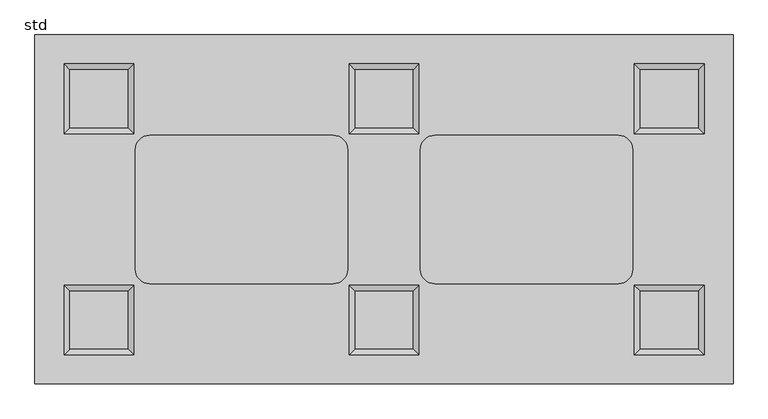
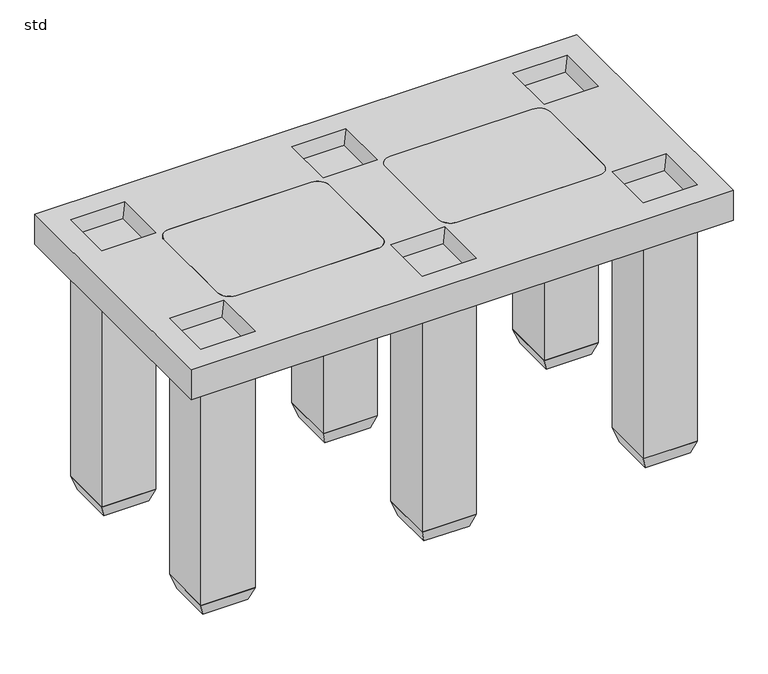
"""IFC4 building model written with IfcOpenShell, lengths in millimetres: unitary equipment geometry, Z_ME_UN_Q-Bic_Plus_Infiltration_Unit_Wavin_(nested) : std."""

from ifc_helpers import new_model, si_unit, point, frame, frame_2d, origin, origin_with_axes, place, context, project, spatial, polyline, circle_curve, trimmed, segment, composite_curve, outline, extrude, faceted_brep, source, transform, mapped, element, save
from ifc_brep_helpers import plane_surface, revolved_surface, advanced_brep


def std_d7962c01(model_context):
    return source(origin(), model_context, "Body", "SolidModel", [
        extrude(outline(composite_curve([segment(polyline([(687.5, 427.5), (1002.5, 427.5)]), True, "CONTINUOUS"), segment(trimmed(circle_curve(frame_2d((1002.5, 402.5)), 25.0), [point((1002.5, 427.5))], [point((1027.5, 402.5))], False, "CARTESIAN"), True, "CONTINUOUS"), segment(polyline([(1027.5, 402.5), (1027.5, 197.5)]), True, "CONTINUOUS"), segment(trimmed(circle_curve(frame_2d((1002.5, 197.5)), 25.0), [point((1027.5, 197.5))], [point((1002.5, 172.5))], False, "CARTESIAN"), True, "CONTINUOUS"), segment(polyline([(1002.5, 172.5), (687.5, 172.5)]), True, "CONTINUOUS"), segment(trimmed(circle_curve(frame_2d((687.5, 197.5)), 25.0), [point((687.5, 172.5))], [point((662.5, 197.5))], False, "CARTESIAN"), True, "CONTINUOUS"), segment(polyline([(662.5, 197.5), (662.5, 402.5)]), True, "CONTINUOUS"), segment(trimmed(circle_curve(frame_2d((687.5, 402.5)), 25.0), [point((662.5, 402.5))], [point((687.5, 427.5))], False, "CARTESIAN"), True, "CONTINUOUS")], self_intersect=False)), frame((0.0, 0.0, 530.0), z_axis=(0.0, 0.0, 1.0), x_axis=(1.0, 0.0, 0.0)), (0.0, 0.0, 1.0), 70.0),
        extrude(outline(composite_curve([segment(polyline([(197.5, 427.5), (512.5, 427.5)]), True, "CONTINUOUS"), segment(trimmed(circle_curve(frame_2d((512.5, 402.5)), 25.0), [point((512.5, 427.5))], [point((537.5, 402.5))], False, "CARTESIAN"), True, "CONTINUOUS"), segment(polyline([(537.5, 402.5), (537.5, 197.5)]), True, "CONTINUOUS"), segment(trimmed(circle_curve(frame_2d((512.5, 197.5)), 25.0), [point((537.5, 197.5))], [point((512.5, 172.5))], False, "CARTESIAN"), True, "CONTINUOUS"), segment(polyline([(512.5, 172.5), (197.5, 172.5)]), True, "CONTINUOUS"), segment(trimmed(circle_curve(frame_2d((197.5, 197.5)), 25.0), [point((197.5, 172.5))], [point((172.5, 197.5))], False, "CARTESIAN"), True, "CONTINUOUS"), segment(polyline([(172.5, 197.5), (172.5, 402.5)]), True, "CONTINUOUS"), segment(trimmed(circle_curve(frame_2d((197.5, 402.5)), 25.0), [point((172.5, 402.5))], [point((197.5, 427.5))], False, "CARTESIAN"), True, "CONTINUOUS")], self_intersect=False)), frame((0.0, 0.0, 530.0), z_axis=(0.0, 0.0, 1.0), x_axis=(1.0, 0.0, 0.0)), (0.0, 0.0, 1.0), 70.0),
        advanced_brep(
        [(1200.0, 600.0, 600.0), (0.0, 600.0, 600.0), (0.0, 0.0, 600.0), (1200.0, 0.0, 600.0), (50.0, 550.0, 600.0), (170.0, 550.0, 600.0), (170.0, 430.0, 600.0), (50.0, 430.0, 600.0), (50.0, 170.0, 600.0), (170.0, 170.0, 600.0), (170.0, 50.0, 600.0), (50.0, 50.0, 600.0), (540.0, 170.0, 600.0), (660.0, 170.0, 600.0), (660.0, 50.0, 600.0), (540.0, 50.0, 600.0), (540.0, 550.0, 600.0), (660.0, 550.0, 600.0), (660.0, 430.0, 600.0), (540.0, 430.0, 600.0), (1030.0, 550.0, 600.0), (1150.0, 550.0, 600.0), (1150.0, 430.0, 600.0), (1030.0, 430.0, 600.0), (1030.0, 170.0, 600.0), (1150.0, 170.0, 600.0), (1150.0, 50.0, 600.0), (1030.0, 50.0, 600.0), (172.5, 402.5, 600.0), (197.5, 427.5, 600.0), (512.5, 427.5, 600.0), (537.5, 402.5, 600.0), (537.5, 197.5, 600.0), (512.5, 172.5, 600.0), (197.5, 172.5, 600.0), (172.5, 197.5, 600.0), (662.5, 402.5, 600.0), (687.5, 427.5, 600.0), (1002.5, 427.5, 600.0), (1027.5, 402.5, 600.0), (1027.5, 197.5, 600.0), (1002.5, 172.5, 600.0), (687.5, 172.5, 600.0), (662.5, 197.5, 600.0), (1200.0, 600.0, 530.0), (1200.0, 0.0, 530.0), (0.0, 0.0, 530.0), (0.0, 600.0, 530.0), (172.5, 402.5, 530.0), (172.5, 197.5, 530.0), (197.5, 172.5, 530.0), (512.5, 172.5, 530.0), (537.5, 197.5, 530.0), (537.5, 402.5, 530.0), (512.5, 427.5, 530.0), (197.5, 427.5, 530.0), (662.5, 402.5, 530.0), (662.5, 197.5, 530.0), (687.5, 172.5, 530.0), (1002.5, 172.5, 530.0), (1027.5, 197.5, 530.0), (1027.5, 402.5, 530.0), (1002.5, 427.5, 530.0), (687.5, 427.5, 530.0), (160.0, 540.0, 570.0), (60.0, 540.0, 570.0), (60.0, 440.0, 570.0), (160.0, 440.0, 570.0), (160.0, 160.0, 570.0), (60.0, 160.0, 570.0), (60.0, 60.0, 570.0), (160.0, 60.0, 570.0), (650.0, 540.0, 570.0), (550.0, 540.0, 570.0), (550.0, 440.0, 570.0), (650.0, 440.0, 570.0), (1140.0, 540.0, 570.0), (1040.0, 540.0, 570.0), (1040.0, 440.0, 570.0), (1140.0, 440.0, 570.0), (650.0, 160.0, 570.0), (550.0, 160.0, 570.0), (550.0, 60.0, 570.0), (650.0, 60.0, 570.0), (1140.0, 160.0, 570.0), (1040.0, 160.0, 570.0), (1040.0, 60.0, 570.0), (1140.0, 60.0, 570.0)],
        [
            (0, 1),
            (1, 2),
            (2, 3),
            (3, 0),
            (4, 5),
            (5, 6),
            (6, 7),
            (7, 4),
            (8, 9),
            (9, 10),
            (10, 11),
            (11, 8),
            (12, 13),
            (13, 14),
            (14, 15),
            (15, 12),
            (16, 17),
            (17, 18),
            (18, 19),
            (19, 16),
            (20, 21),
            (21, 22),
            (22, 23),
            (23, 20),
            (24, 25),
            (25, 26),
            (26, 27),
            (27, 24),
            (28, 29, circle_curve(frame((197.5, 402.5, 600.0), z_axis=(0.0, 0.0, -1.0), x_axis=(1.0, 0.0, 0.0)), 25.0)),
            (29, 30),
            (30, 31, circle_curve(frame((512.5, 402.5, 600.0), z_axis=(0.0, 0.0, -1.0), x_axis=(1.0, 0.0, 0.0)), 25.0)),
            (31, 32),
            (32, 33, circle_curve(frame((512.5, 197.5, 600.0), z_axis=(0.0, 0.0, -1.0), x_axis=(1.0, 0.0, 0.0)), 25.0)),
            (33, 34),
            (34, 35, circle_curve(frame((197.5, 197.5, 600.0), z_axis=(0.0, 0.0, -1.0), x_axis=(1.0, 0.0, 0.0)), 25.0)),
            (35, 28),
            (36, 37, circle_curve(frame((687.5, 402.5, 600.0), z_axis=(0.0, 0.0, -1.0), x_axis=(1.0, 0.0, 0.0)), 25.0)),
            (37, 38),
            (38, 39, circle_curve(frame((1002.5, 402.5, 600.0), z_axis=(0.0, 0.0, -1.0), x_axis=(1.0, 0.0, 0.0)), 25.0)),
            (39, 40),
            (40, 41, circle_curve(frame((1002.5, 197.5, 600.0), z_axis=(0.0, 0.0, -1.0), x_axis=(1.0, 0.0, 0.0)), 25.0)),
            (41, 42),
            (42, 43, circle_curve(frame((687.5, 197.5, 600.0), z_axis=(0.0, 0.0, -1.0), x_axis=(1.0, 0.0, 0.0)), 25.0)),
            (43, 36),
            (44, 45),
            (45, 46),
            (46, 47),
            (47, 44),
            (48, 49),
            (49, 50, circle_curve(frame((197.5, 197.5, 530.0), z_axis=(0.0, 0.0, 1.0), x_axis=(1.0, 0.0, 0.0)), 25.0)),
            (50, 51),
            (51, 52, circle_curve(frame((512.5, 197.5, 530.0), z_axis=(0.0, 0.0, 1.0), x_axis=(1.0, 0.0, 0.0)), 25.0)),
            (52, 53),
            (53, 54, circle_curve(frame((512.5, 402.5, 530.0), z_axis=(0.0, 0.0, 1.0), x_axis=(1.0, 0.0, 0.0)), 25.0)),
            (54, 55),
            (55, 48, circle_curve(frame((197.5, 402.5, 530.0), z_axis=(0.0, 0.0, 1.0), x_axis=(1.0, 0.0, 0.0)), 25.0)),
            (56, 57),
            (57, 58, circle_curve(frame((687.5, 197.5, 530.0), z_axis=(0.0, 0.0, 1.0), x_axis=(1.0, 0.0, 0.0)), 25.0)),
            (58, 59),
            (59, 60, circle_curve(frame((1002.5, 197.5, 530.0), z_axis=(0.0, 0.0, 1.0), x_axis=(1.0, 0.0, 0.0)), 25.0)),
            (60, 61),
            (61, 62, circle_curve(frame((1002.5, 402.5, 530.0), z_axis=(0.0, 0.0, 1.0), x_axis=(1.0, 0.0, 0.0)), 25.0)),
            (62, 63),
            (63, 56, circle_curve(frame((687.5, 402.5, 530.0), z_axis=(0.0, 0.0, 1.0), x_axis=(1.0, 0.0, 0.0)), 25.0)),
            (0, 44),
            (47, 1),
            (46, 2),
            (45, 3),
            (64, 65),
            (65, 66),
            (66, 67),
            (67, 64),
            (64, 5),
            (4, 65),
            (7, 66),
            (6, 67),
            (68, 69),
            (69, 70),
            (70, 71),
            (71, 68),
            (68, 9),
            (8, 69),
            (11, 70),
            (10, 71),
            (72, 73),
            (73, 74),
            (74, 75),
            (75, 72),
            (72, 17),
            (16, 73),
            (19, 74),
            (18, 75),
            (76, 77),
            (77, 78),
            (78, 79),
            (79, 76),
            (76, 21),
            (20, 77),
            (23, 78),
            (22, 79),
            (80, 81),
            (81, 82),
            (82, 83),
            (83, 80),
            (80, 13),
            (12, 81),
            (15, 82),
            (14, 83),
            (84, 85),
            (85, 86),
            (86, 87),
            (87, 84),
            (84, 25),
            (24, 85),
            (27, 86),
            (26, 87),
            (28, 48),
            (55, 29),
            (54, 30),
            (53, 31),
            (52, 32),
            (51, 33),
            (50, 34),
            (49, 35),
            (36, 56),
            (63, 37),
            (62, 38),
            (61, 39),
            (60, 40),
            (59, 41),
            (58, 42),
            (57, 43),
        ],
        [
            plane_surface(frame((0.0, 600.0, 600.0), z_axis=(0.0, 0.0, 1.0), x_axis=(-1.0, 0.0, 0.0))),
            plane_surface(frame((0.0, 600.0, 530.0), z_axis=(0.0, 0.0, -1.0), x_axis=(1.0, 0.0, 0.0))),
            plane_surface(frame((1200.0, 600.0, 600.0), z_axis=(0.0, 1.0, 0.0), x_axis=(0.0, 0.0, -1.0))),
            plane_surface(frame((0.0, 600.0, 600.0), z_axis=(-1.0, 0.0, 0.0), x_axis=(0.0, 0.0, -1.0))),
            plane_surface(frame((0.0, 0.0, 600.0), z_axis=(0.0, -1.0, 0.0), x_axis=(0.0, 0.0, -1.0))),
            plane_surface(frame((1200.0, 0.0, 600.0), z_axis=(1.0, 0.0, 0.0), x_axis=(0.0, 0.0, -1.0))),
            plane_surface(frame((110.0, 490.0, 570.0), z_axis=(0.0, 0.0, 1.0), x_axis=(-1.0, 0.0, 0.0))),
            plane_surface(frame((110.0, 550.0, 600.0), z_axis=(0.0, -0.9486832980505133, 0.3162277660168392), x_axis=(1.0, 0.0, 0.0))),
            plane_surface(frame((50.0, 490.0, 600.0), z_axis=(0.9486832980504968, 0.0, 0.3162277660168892), x_axis=(0.0, 1.0, 0.0))),
            plane_surface(frame((110.0, 430.0, 600.0), z_axis=(0.0, 0.9486832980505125, 0.31622776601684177), x_axis=(-1.0, 0.0, 0.0))),
            plane_surface(frame((170.0, 490.0, 600.0), z_axis=(-0.948683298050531, 0.0, 0.3162277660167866), x_axis=(0.0, -1.0, 0.0))),
            plane_surface(frame((110.0, 110.0, 570.0), z_axis=(0.0, 0.0, 1.0), x_axis=(-1.0, 0.0, 0.0))),
            plane_surface(frame((110.0, 170.0, 600.0), z_axis=(0.0, -0.9486832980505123, 0.31622776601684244), x_axis=(1.0, 0.0, 0.0))),
            plane_surface(frame((50.0, 110.0, 600.0), z_axis=(0.948683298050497, 0.0, 0.3162277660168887), x_axis=(0.0, 1.0, 0.0))),
            plane_surface(frame((110.0, 50.0, 600.0), z_axis=(0.0, 0.9486832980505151, 0.31622776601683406), x_axis=(-1.0, 0.0, 0.0))),
            plane_surface(frame((170.0, 110.0, 600.0), z_axis=(-0.9486832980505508, 0.0, 0.31622776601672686), x_axis=(0.0, -1.0, 0.0))),
            plane_surface(frame((600.0, 490.0, 570.0), z_axis=(0.0, 0.0, 1.0), x_axis=(-1.0, 0.0, 0.0))),
            plane_surface(frame((600.0, 550.0, 600.0), z_axis=(0.0, -0.9486832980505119, 0.3162277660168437), x_axis=(1.0, 0.0, 0.0))),
            plane_surface(frame((540.0, 490.0, 600.0), z_axis=(0.9486832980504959, 0.0, 0.3162277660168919), x_axis=(0.0, 1.0, 0.0))),
            plane_surface(frame((600.0, 430.0, 600.0), z_axis=(0.0, 0.948683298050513, 0.31622776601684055), x_axis=(-1.0, 0.0, 0.0))),
            plane_surface(frame((660.0, 490.0, 600.0), z_axis=(-0.9486832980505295, 0.0, 0.3162277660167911), x_axis=(0.0, -1.0, 0.0))),
            plane_surface(frame((1090.0, 490.0, 570.0), z_axis=(0.0, 0.0, 1.0), x_axis=(-1.0, 0.0, 0.0))),
            plane_surface(frame((1090.0, 550.0, 600.0), z_axis=(0.0, -0.9486832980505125, 0.3162277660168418), x_axis=(1.0, 0.0, 0.0))),
            plane_surface(frame((1030.0, 490.0, 600.0), z_axis=(0.9486832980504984, 0.0, 0.3162277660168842), x_axis=(0.0, 1.0, 0.0))),
            plane_surface(frame((1090.0, 430.0, 600.0), z_axis=(0.0, 0.9486832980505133, 0.3162277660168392), x_axis=(-1.0, 0.0, 0.0))),
            plane_surface(frame((1150.0, 490.0, 600.0), z_axis=(-0.9486832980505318, 0.0, 0.316227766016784), x_axis=(0.0, -1.0, 0.0))),
            plane_surface(frame((600.0, 110.0, 570.0), z_axis=(0.0, 0.0, 1.0), x_axis=(-1.0, 0.0, 0.0))),
            plane_surface(frame((600.0, 170.0, 600.0), z_axis=(0.0, -0.9486832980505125, 0.31622776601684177), x_axis=(1.0, 0.0, 0.0))),
            plane_surface(frame((540.0, 110.0, 600.0), z_axis=(0.9486832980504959, 0.0, 0.3162277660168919), x_axis=(0.0, 1.0, 0.0))),
            plane_surface(frame((600.0, 50.0, 600.0), z_axis=(0.0, 0.9486832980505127, 0.31622776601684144), x_axis=(-1.0, 0.0, 0.0))),
            plane_surface(frame((660.0, 110.0, 600.0), z_axis=(-0.9486832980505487, 0.0, 0.3162277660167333), x_axis=(0.0, -1.0, 0.0))),
            plane_surface(frame((1090.0, 110.0, 570.0), z_axis=(0.0, 0.0, 1.0), x_axis=(-1.0, 0.0, 0.0))),
            plane_surface(frame((1090.0, 170.0, 600.0), z_axis=(0.0, -0.948683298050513, 0.31622776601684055), x_axis=(1.0, 0.0, 0.0))),
            plane_surface(frame((1030.0, 110.0, 600.0), z_axis=(0.9486832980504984, 0.0, 0.3162277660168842), x_axis=(0.0, 1.0, 0.0))),
            plane_surface(frame((1090.0, 50.0, 600.0), z_axis=(0.0, 0.948683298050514, 0.31622776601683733), x_axis=(-1.0, 0.0, 0.0))),
            plane_surface(frame((1150.0, 110.0, 600.0), z_axis=(-0.9486832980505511, 0.0, 0.31622776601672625), x_axis=(0.0, -1.0, 0.0))),
            revolved_surface(polyline([(222.5, 402.5, 530.0), (222.5, 402.5, 600.0)]), (197.5, 402.5, 0.0), (0.0, 0.0, -1.0)),
            plane_surface(frame((197.5, 427.5, 600.0), z_axis=(0.0, -1.0, 0.0), x_axis=(0.0, 0.0, -1.0))),
            revolved_surface(polyline([(537.5, 402.5, 530.0), (537.5, 402.5, 600.0)]), (512.5, 402.5, 0.0), (0.0, 0.0, -1.0)),
            plane_surface(frame((537.5, 402.5, 600.0), z_axis=(-1.0, 0.0, 0.0), x_axis=(0.0, 0.0, -1.0))),
            revolved_surface(polyline([(537.5, 197.5, 530.0), (537.5, 197.5, 600.0)]), (512.5, 197.5, 0.0), (0.0, 0.0, -1.0)),
            plane_surface(frame((512.5, 172.5, 600.0), z_axis=(0.0, 1.0, 0.0), x_axis=(0.0, 0.0, -1.0))),
            revolved_surface(polyline([(222.5, 197.5, 530.0), (222.5, 197.5, 600.0)]), (197.5, 197.5, 0.0), (0.0, 0.0, -1.0)),
            plane_surface(frame((172.5, 197.5, 600.0), z_axis=(1.0, 0.0, 0.0), x_axis=(0.0, 0.0, -1.0))),
            revolved_surface(polyline([(712.5, 402.5, 530.0), (712.5, 402.5, 600.0)]), (687.5, 402.5, 0.0), (0.0, 0.0, -1.0)),
            plane_surface(frame((687.5, 427.5, 600.0), z_axis=(0.0, -1.0, 0.0), x_axis=(0.0, 0.0, -1.0))),
            revolved_surface(polyline([(1027.5, 402.5, 530.0), (1027.5, 402.5, 600.0)]), (1002.5, 402.5, 0.0), (0.0, 0.0, -1.0)),
            plane_surface(frame((1027.5, 402.5, 600.0), z_axis=(-1.0, 0.0, 0.0), x_axis=(0.0, 0.0, -1.0))),
            revolved_surface(polyline([(1027.5, 197.5, 530.0), (1027.5, 197.5, 600.0)]), (1002.5, 197.5, 0.0), (0.0, 0.0, -1.0)),
            plane_surface(frame((1002.5, 172.5, 600.0), z_axis=(0.0, 1.0, 0.0), x_axis=(0.0, 0.0, -1.0))),
            revolved_surface(polyline([(712.5, 197.5, 530.0), (712.5, 197.5, 600.0)]), (687.5, 197.5, 0.0), (0.0, 0.0, -1.0)),
            plane_surface(frame((662.5, 197.5, 600.0), z_axis=(1.0, 0.0, 0.0), x_axis=(0.0, 0.0, -1.0))),
        ],
        [
            (0, [[1, 2, 3, 4], [5, 6, 7, 8], [9, 10, 11, 12], [13, 14, 15, 16], [17, 18, 19, 20], [21, 22, 23, 24], [25, 26, 27, 28], [29, 30, 31, 32, 33, 34, 35, 36], [37, 38, 39, 40, 41, 42, 43, 44]]),
            (1, [[45, 46, 47, 48], [49, 50, 51, 52, 53, 54, 55, 56], [57, 58, 59, 60, 61, 62, 63, 64]]),
            (2, [[-1, 65, -48, 66]]),
            (3, [[-2, -66, -47, 67]]),
            (4, [[-3, -67, -46, 68]]),
            (5, [[-4, -68, -45, -65]]),
            (6, [[69, 70, 71, 72]]),
            (7, [[-69, 73, -5, 74]]),
            (8, [[-70, -74, -8, 75]]),
            (9, [[-71, -75, -7, 76]]),
            (10, [[-72, -76, -6, -73]]),
            (11, [[77, 78, 79, 80]]),
            (12, [[-77, 81, -9, 82]]),
            (13, [[-78, -82, -12, 83]]),
            (14, [[-79, -83, -11, 84]]),
            (15, [[-80, -84, -10, -81]]),
            (16, [[85, 86, 87, 88]]),
            (17, [[-85, 89, -17, 90]]),
            (18, [[-86, -90, -20, 91]]),
            (19, [[-87, -91, -19, 92]]),
            (20, [[-88, -92, -18, -89]]),
            (21, [[93, 94, 95, 96]]),
            (22, [[-93, 97, -21, 98]]),
            (23, [[-94, -98, -24, 99]]),
            (24, [[-95, -99, -23, 100]]),
            (25, [[-96, -100, -22, -97]]),
            (26, [[101, 102, 103, 104]]),
            (27, [[-101, 105, -13, 106]]),
            (28, [[-102, -106, -16, 107]]),
            (29, [[-103, -107, -15, 108]]),
            (30, [[-104, -108, -14, -105]]),
            (31, [[109, 110, 111, 112]]),
            (32, [[-109, 113, -25, 114]]),
            (33, [[-110, -114, -28, 115]]),
            (34, [[-111, -115, -27, 116]]),
            (35, [[-112, -116, -26, -113]]),
            (36, [[-29, 117, -56, 118]]),
            (37, [[-30, -118, -55, 119]]),
            (38, [[-31, -119, -54, 120]]),
            (39, [[-32, -120, -53, 121]]),
            (40, [[-33, -121, -52, 122]]),
            (41, [[-34, -122, -51, 123]]),
            (42, [[-35, -123, -50, 124]]),
            (43, [[-36, -124, -49, -117]]),
            (44, [[-37, 125, -64, 126]]),
            (45, [[-38, -126, -63, 127]]),
            (46, [[-39, -127, -62, 128]]),
            (47, [[-40, -128, -61, 129]]),
            (48, [[-41, -129, -60, 130]]),
            (49, [[-42, -130, -59, 131]]),
            (50, [[-43, -131, -58, 132]]),
            (51, [[-44, -132, -57, -125]]),
        ],
    ),
        faceted_brep([(1140.0, 160.0, -30.0), (1140.0, 60.0, -30.0), (1040.0, 60.0, -30.0), (1040.0, 160.0, -30.0), (1150.0, 170.0, 0.0), (1030.0, 170.0, 0.0), (1030.0, 50.0, 0.0), (1150.0, 50.0, 0.0)], [[[0, 1, 2, 3]], [[4, 5, 6, 7]], [[5, 4, 0, 3]], [[6, 5, 3, 2]], [[7, 6, 2, 1]], [[4, 7, 1, 0]]]),
        faceted_brep([(650.0, 160.0, -30.0), (650.0, 60.0, -30.0), (550.0, 60.0, -30.0), (550.0, 160.0, -30.0), (660.0, 170.0, 0.0), (540.0, 170.0, 0.0), (540.0, 50.0, 0.0), (660.0, 50.0, 0.0)], [[[0, 1, 2, 3]], [[4, 5, 6, 7]], [[5, 4, 0, 3]], [[6, 5, 3, 2]], [[7, 6, 2, 1]], [[4, 7, 1, 0]]]),
        faceted_brep([(160.0, 160.0, -30.0), (160.0, 60.0, -30.0), (60.0, 60.0, -30.0), (60.0, 160.0, -30.0), (170.0, 170.0, 0.0), (50.0, 170.0, 0.0), (50.0, 50.0, 0.0), (170.0, 50.0, 0.0)], [[[0, 1, 2, 3]], [[4, 5, 6, 7]], [[5, 4, 0, 3]], [[6, 5, 3, 2]], [[7, 6, 2, 1]], [[4, 7, 1, 0]]]),
        faceted_brep([(1140.0, 540.0, -30.0), (1140.0, 440.0, -30.0), (1040.0, 440.0, -30.0), (1040.0, 540.0, -30.0), (1150.0, 550.0, 0.0), (1030.0, 550.0, 0.0), (1030.0, 430.0, 0.0), (1150.0, 430.0, 0.0)], [[[0, 1, 2, 3]], [[4, 5, 6, 7]], [[5, 4, 0, 3]], [[6, 5, 3, 2]], [[7, 6, 2, 1]], [[4, 7, 1, 0]]]),
        faceted_brep([(650.0, 540.0, -30.0), (650.0, 440.0, -30.0), (550.0, 440.0, -30.0), (550.0, 540.0, -30.0), (660.0, 550.0, 0.0), (540.0, 550.0, 0.0), (540.0, 430.0, 0.0), (660.0, 430.0, 0.0)], [[[0, 1, 2, 3]], [[4, 5, 6, 7]], [[5, 4, 0, 3]], [[6, 5, 3, 2]], [[7, 6, 2, 1]], [[4, 7, 1, 0]]]),
        faceted_brep([(160.0, 540.0, -30.0), (160.0, 440.0, -30.0), (60.0, 440.0, -30.0), (60.0, 540.0, -30.0), (170.0, 550.0, 0.0), (50.0, 550.0, 0.0), (50.0, 430.0, 0.0), (170.0, 430.0, 0.0)], [[[0, 1, 2, 3]], [[4, 5, 6, 7]], [[5, 4, 0, 3]], [[6, 5, 3, 2]], [[7, 6, 2, 1]], [[4, 7, 1, 0]]]),
        extrude(outline(polyline([(170.0, 550.0), (170.0, 430.0), (50.0, 430.0), (50.0, 550.0), (170.0, 550.0)])), origin_with_axes(), (0.0, 0.0, 1.0), 530.0),
        extrude(outline(polyline([(170.0, 170.0), (170.0, 50.0), (50.0, 50.0), (50.0, 170.0), (170.0, 170.0)])), origin_with_axes(), (0.0, 0.0, 1.0), 530.0),
        extrude(outline(polyline([(660.0, 550.0), (660.0, 430.0), (540.0, 430.0), (540.0, 550.0), (660.0, 550.0)])), origin_with_axes(), (0.0, 0.0, 1.0), 530.0),
        extrude(outline(polyline([(660.0, 170.0), (660.0, 50.0), (540.0, 50.0), (540.0, 170.0), (660.0, 170.0)])), origin_with_axes(), (0.0, 0.0, 1.0), 530.0),
        extrude(outline(polyline([(1150.0, 550.0), (1150.0, 430.0), (1030.0, 430.0), (1030.0, 550.0), (1150.0, 550.0)])), origin_with_axes(), (0.0, 0.0, 1.0), 530.0),
        extrude(outline(polyline([(1150.0, 170.0), (1150.0, 50.0), (1030.0, 50.0), (1030.0, 170.0), (1150.0, 170.0)])), origin_with_axes(), (0.0, 0.0, 1.0), 530.0),
    ])


if __name__ == "__main__":
    model = new_model("IFC4")
    model_context = context("Model", 3, world=origin())
    ifc_project = project(units=[si_unit("LENGTHUNIT", "METRE", prefix="MILLI")], contexts=[model_context])
    site = spatial("IfcSite", under=ifc_project)
    building = spatial("IfcBuilding", under=site)
    placement = place(None, origin())
    std_shape = std_d7962c01(model_context)
    element("IfcUnitaryEquipment", 1, ObjectType="Z_ME_UN_Q-Bic_Plus_Infiltration_Unit_Wavin_(nested) : std", at=placement, inside=building, context=model_context, shape_type="MappedRepresentation", body=[
        mapped(std_shape, transform((0.0, 0.0, 0.0), x_axis=(1.0, 0.0, 0.0), y_axis=(0.0, 1.0, 0.0), z_axis=(0.0, 0.0, 1.0))),
    ])
    save(model, "model.ifc")
